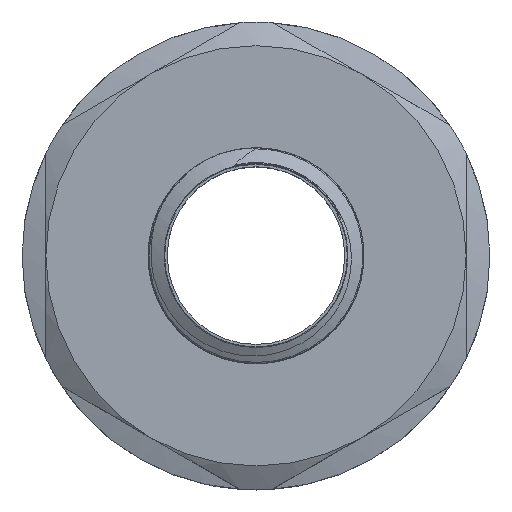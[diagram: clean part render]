
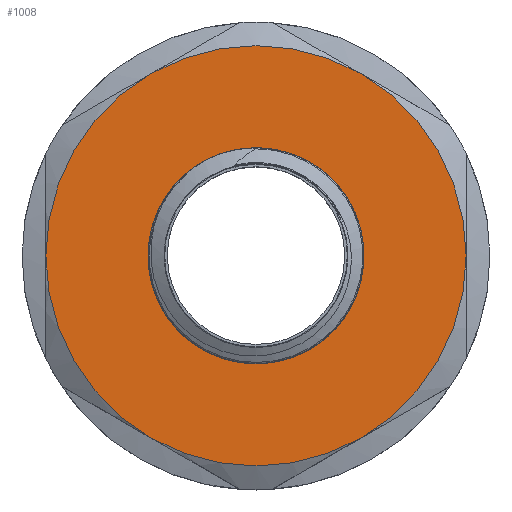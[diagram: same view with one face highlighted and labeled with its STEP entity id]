
A CAD part, top view. The second image highlights one B-rep face of the part: STEP entity #1008.
In plain terms, the highlighted planar face has unit normal (0, 0, 1).
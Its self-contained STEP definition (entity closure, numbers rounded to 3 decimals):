
#96=FACE_BOUND('',#241,.T.);
#109=PLANE('',#1123);
#178=FACE_OUTER_BOUND('',#240,.T.);
#240=EDGE_LOOP('',(#778,#779,#780,#781,#782,#783));
#241=EDGE_LOOP('',(#784,#785));
#348=CIRCLE('',#1069,7.768);
#349=CIRCLE('',#1070,7.768);
#351=CIRCLE('',#1073,17.75);
#353=CIRCLE('',#1076,17.75);
#355=CIRCLE('',#1079,17.75);
#356=CIRCLE('',#1081,17.75);
#359=CIRCLE('',#1085,17.75);
#361=CIRCLE('',#1088,17.75);
#392=VERTEX_POINT('',#1384);
#393=VERTEX_POINT('',#1385);
#395=VERTEX_POINT('',#1391);
#397=VERTEX_POINT('',#1397);
#399=VERTEX_POINT('',#1404);
#402=VERTEX_POINT('',#1416);
#405=VERTEX_POINT('',#1431);
#409=VERTEX_POINT('',#1445);
#498=EDGE_CURVE('',#392,#393,#348,.T.);
#500=EDGE_CURVE('',#393,#392,#349,.T.);
#504=EDGE_CURVE('',#395,#397,#351,.T.);
#508=EDGE_CURVE('',#399,#395,#353,.T.);
#512=EDGE_CURVE('',#402,#399,#355,.T.);
#514=EDGE_CURVE('',#405,#402,#356,.T.);
#519=EDGE_CURVE('',#409,#405,#359,.T.);
#523=EDGE_CURVE('',#397,#409,#361,.T.);
#778=ORIENTED_EDGE('',*,*,#523,.T.);
#779=ORIENTED_EDGE('',*,*,#519,.T.);
#780=ORIENTED_EDGE('',*,*,#514,.T.);
#781=ORIENTED_EDGE('',*,*,#512,.T.);
#782=ORIENTED_EDGE('',*,*,#508,.T.);
#783=ORIENTED_EDGE('',*,*,#504,.T.);
#784=ORIENTED_EDGE('',*,*,#498,.F.);
#785=ORIENTED_EDGE('',*,*,#500,.F.);
#1008=ADVANCED_FACE('',(#178,#96),#109,.T.);
#1069=AXIS2_PLACEMENT_3D('',#1386,#1168,#1169);
#1070=AXIS2_PLACEMENT_3D('',#1388,#1171,#1172);
#1073=AXIS2_PLACEMENT_3D('',#1401,#1177,#1178);
#1076=AXIS2_PLACEMENT_3D('',#1413,#1183,#1184);
#1079=AXIS2_PLACEMENT_3D('',#1425,#1189,#1190);
#1081=AXIS2_PLACEMENT_3D('',#1432,#1193,#1194);
#1085=AXIS2_PLACEMENT_3D('',#1446,#1201,#1202);
#1088=AXIS2_PLACEMENT_3D('',#1457,#1207,#1208);
#1123=AXIS2_PLACEMENT_3D('',#1551,#1292,#1293);
#1168=DIRECTION('center_axis',(0.,0.,1.));
#1169=DIRECTION('ref_axis',(1.,0.,0.));
#1171=DIRECTION('center_axis',(0.,0.,1.));
#1172=DIRECTION('ref_axis',(1.,0.,0.));
#1177=DIRECTION('center_axis',(0.,0.,1.));
#1178=DIRECTION('ref_axis',(0.,1.,0.));
#1183=DIRECTION('center_axis',(0.,0.,1.));
#1184=DIRECTION('ref_axis',(0.,1.,0.));
#1189=DIRECTION('center_axis',(0.,0.,1.));
#1190=DIRECTION('ref_axis',(0.,1.,0.));
#1193=DIRECTION('center_axis',(0.,0.,1.));
#1194=DIRECTION('ref_axis',(0.,1.,0.));
#1201=DIRECTION('center_axis',(0.,0.,1.));
#1202=DIRECTION('ref_axis',(0.,1.,0.));
#1207=DIRECTION('center_axis',(0.,0.,1.));
#1208=DIRECTION('ref_axis',(0.,1.,0.));
#1292=DIRECTION('center_axis',(0.,0.,1.));
#1293=DIRECTION('ref_axis',(1.,0.,0.));
#1384=CARTESIAN_POINT('',(0.,7.768,15.5));
#1385=CARTESIAN_POINT('',(0.,-7.768,15.5));
#1386=CARTESIAN_POINT('Origin',(0.,0.,15.5));
#1388=CARTESIAN_POINT('Origin',(0.,0.,15.5));
#1391=CARTESIAN_POINT('',(-8.875,-15.372,15.5));
#1397=CARTESIAN_POINT('',(8.875,-15.372,15.5));
#1401=CARTESIAN_POINT('Origin',(0.,0.,15.5));
#1404=CARTESIAN_POINT('',(-17.75,0.,15.5));
#1413=CARTESIAN_POINT('Origin',(0.,0.,15.5));
#1416=CARTESIAN_POINT('',(-8.875,15.372,15.5));
#1425=CARTESIAN_POINT('Origin',(0.,0.,15.5));
#1431=CARTESIAN_POINT('',(8.875,15.372,15.5));
#1432=CARTESIAN_POINT('Origin',(0.,0.,15.5));
#1445=CARTESIAN_POINT('',(17.75,0.,15.5));
#1446=CARTESIAN_POINT('Origin',(0.,0.,15.5));
#1457=CARTESIAN_POINT('Origin',(0.,0.,15.5));
#1551=CARTESIAN_POINT('Origin',(0.,-9.113,15.5));
